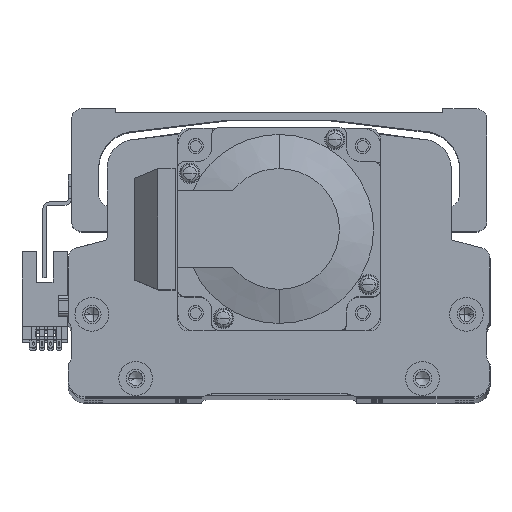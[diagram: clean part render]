
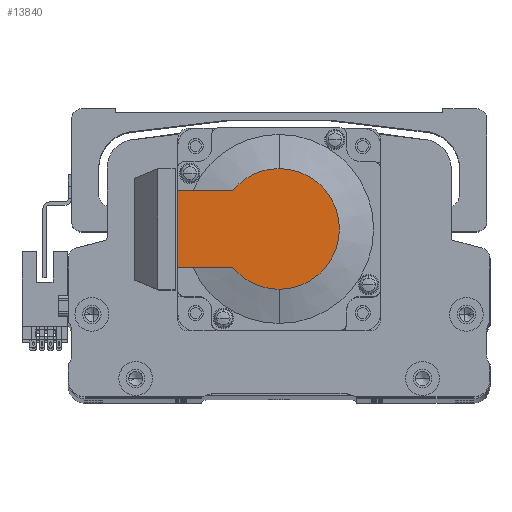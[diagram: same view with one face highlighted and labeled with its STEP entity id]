
A CAD part, top view. The second image highlights one B-rep face of the part: STEP entity #13840.
In plain terms, the highlighted planar face has unit normal (0, 0, 1) as drawn and (-1, 0, 0) by its records, which use the part's own axes.
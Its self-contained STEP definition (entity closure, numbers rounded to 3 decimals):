
#818 = DIRECTION ( 'NONE',  ( 0., 0., -1. ) ) ;
#950 = AXIS2_PLACEMENT_3D ( 'NONE', #52861, #27008, #818 ) ;
#1209 = PLANE ( 'NONE',  #35737 ) ;
#2059 = LINE ( 'NONE', #15905, #23934 ) ;
#2649 = LINE ( 'NONE', #30485, #11514 ) ;
#3150 = CIRCLE ( 'NONE', #38844, 17.881 ) ;
#3739 = VERTEX_POINT ( 'NONE', #33679 ) ;
#7405 = VERTEX_POINT ( 'NONE', #11088 ) ;
#8050 = ORIENTED_EDGE ( 'NONE', *, *, #24419, .T. ) ;
#8733 = AXIS2_PLACEMENT_3D ( 'NONE', #42091, #16159, #46422 ) ;
#11088 = CARTESIAN_POINT ( 'NONE',  ( -118.5, 30., 11.45 ) ) ;
#11122 = CIRCLE ( 'NONE', #950, 17.881 ) ;
#11514 = VECTOR ( 'NONE', #56362, 1000. ) ;
#11892 = ORIENTED_EDGE ( 'NONE', *, *, #12017, .F. ) ;
#12017 = EDGE_CURVE ( 'NONE', #49110, #7405, #2059, .T. ) ;
#13318 = CARTESIAN_POINT ( 'NONE',  ( -118.5, 0., 0. ) ) ;
#13840 = ADVANCED_FACE ( 'NONE', ( #22964 ), #1209, .T. ) ;
#15905 = CARTESIAN_POINT ( 'NONE',  ( -118.5, 30., 25. ) ) ;
#16159 = DIRECTION ( 'NONE',  ( -1., 0., 0. ) ) ;
#17111 = EDGE_CURVE ( 'NONE', #7405, #32373, #33526, .T. ) ;
#17736 = DIRECTION ( 'NONE',  ( 0., 0., -1. ) ) ;
#18736 = DIRECTION ( 'NONE',  ( 0., -1., 0. ) ) ;
#18823 = CARTESIAN_POINT ( 'NONE',  ( -118.5, -8.941, 0. ) ) ;
#18925 = CARTESIAN_POINT ( 'NONE',  ( -118.5, 0., 11.45 ) ) ;
#22251 = CIRCLE ( 'NONE', #8733, 17.881 ) ;
#22437 = CARTESIAN_POINT ( 'NONE',  ( -118.5, 13.735, -11.45 ) ) ;
#22964 = FACE_OUTER_BOUND ( 'NONE', #52961, .T. ) ;
#23196 = DIRECTION ( 'NONE',  ( 0., 0., 1. ) ) ;
#23934 = VECTOR ( 'NONE', #37572, 1000. ) ;
#24419 = EDGE_CURVE ( 'NONE', #39081, #49469, #11122, .T. ) ;
#26541 = EDGE_CURVE ( 'NONE', #49110, #39081, #2649, .T. ) ;
#27008 = DIRECTION ( 'NONE',  ( -1., 0., 0. ) ) ;
#30485 = CARTESIAN_POINT ( 'NONE',  ( -118.5, -8.941, -11.45 ) ) ;
#32066 = CARTESIAN_POINT ( 'NONE',  ( -118.5, 30., -11.45 ) ) ;
#32373 = VERTEX_POINT ( 'NONE', #41551 ) ;
#32727 = EDGE_CURVE ( 'NONE', #3739, #32373, #3150, .T. ) ;
#33526 = LINE ( 'NONE', #18925, #55150 ) ;
#33679 = CARTESIAN_POINT ( 'NONE',  ( -118.5, 0., 17.881 ) ) ;
#35737 = AXIS2_PLACEMENT_3D ( 'NONE', #18823, #49072, #23196 ) ;
#37572 = DIRECTION ( 'NONE',  ( 0., 0., 1. ) ) ;
#38844 = AXIS2_PLACEMENT_3D ( 'NONE', #13318, #43624, #17736 ) ;
#39081 = VERTEX_POINT ( 'NONE', #22437 ) ;
#40399 = ORIENTED_EDGE ( 'NONE', *, *, #41720, .T. ) ;
#41551 = CARTESIAN_POINT ( 'NONE',  ( -118.5, 13.735, 11.45 ) ) ;
#41720 = EDGE_CURVE ( 'NONE', #49469, #3739, #22251, .T. ) ;
#42091 = CARTESIAN_POINT ( 'NONE',  ( -118.5, 0., 0. ) ) ;
#43198 = ORIENTED_EDGE ( 'NONE', *, *, #26541, .T. ) ;
#43624 = DIRECTION ( 'NONE',  ( -1., 0., 0. ) ) ;
#44112 = CARTESIAN_POINT ( 'NONE',  ( -118.5, 0., -17.881 ) ) ;
#46422 = DIRECTION ( 'NONE',  ( 0., 0., -1. ) ) ;
#49072 = DIRECTION ( 'NONE',  ( -1., 0., 0. ) ) ;
#49110 = VERTEX_POINT ( 'NONE', #32066 ) ;
#49469 = VERTEX_POINT ( 'NONE', #44112 ) ;
#49895 = ORIENTED_EDGE ( 'NONE', *, *, #17111, .F. ) ;
#52861 = CARTESIAN_POINT ( 'NONE',  ( -118.5, 0., 0. ) ) ;
#52961 = EDGE_LOOP ( 'NONE', ( #43198, #8050, #40399, #54481, #49895, #11892 ) ) ;
#54481 = ORIENTED_EDGE ( 'NONE', *, *, #32727, .T. ) ;
#55150 = VECTOR ( 'NONE', #18736, 1000. ) ;
#56362 = DIRECTION ( 'NONE',  ( 0., -1., 0. ) ) ;
